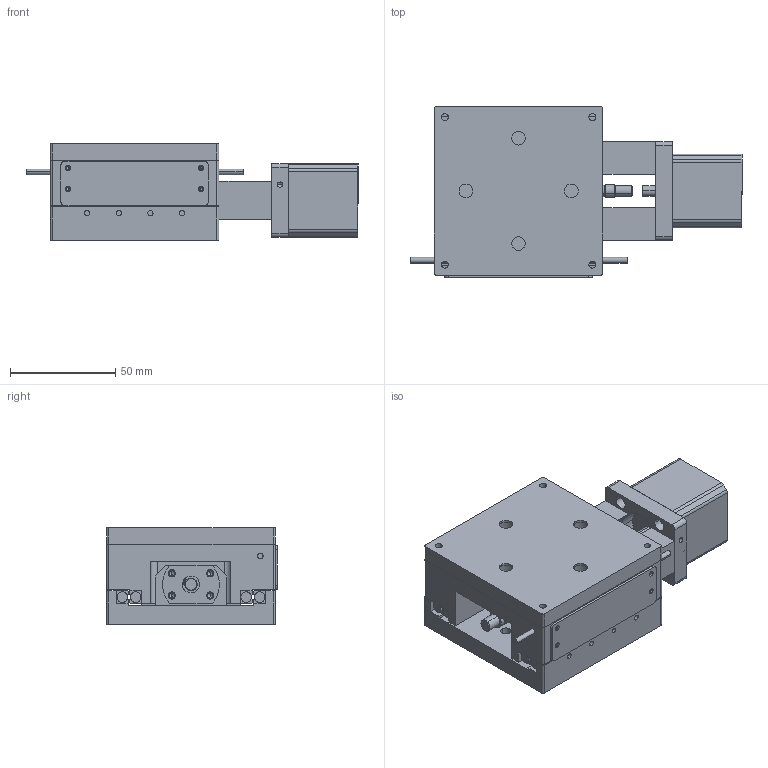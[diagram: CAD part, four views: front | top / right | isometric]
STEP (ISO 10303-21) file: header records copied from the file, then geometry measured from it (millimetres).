
FILE_DESCRIPTION (( 'STEP AP203' ), '1' );
FILE_NAME ('30呶.STEP', '2026-06-23T14:45:58', ( '' ), ( '' ), 'SwSTEP 2.0', 'SolidWorks 2024', '' );
FILE_SCHEMA (( 'CONFIG_CONTROL_DESIGN' ));
Length unit declared in the file: millimetre
Products named in the file (14): 螺帽托架; TSFK00801-T4螺帽; PM-L25; YC35238; 挡板; 30㎜; 台面; V2-75; 基座; 电机板; 限位螺钉; 垫装板; TSFK00801-T4螺杆; 619
Assembly tree (18 placements, depth 2):
  30㎜
    基座
    V2-75  x4
    台面
    TSFK00801-T4螺帽
    TSFK00801-T4螺杆
    螺帽托架
    YC35238
    619  x2
    PM-L25  x2
    电机板
    限位螺钉
    挡板
    垫装板
Bounding box: 157.5 x 81 x 46 mm (x, y, z)
Volume: 284434.8 mm3; surface area: 103819 mm2
Topology: 18 solids, 18 shells, 840 faces, 2131 edges, 1366 vertices
Faces by surface type: cylinder 489, plane 276, cone 69, torus 4, bspline 2
Entity records: 25620 total; most frequent: CARTESIAN_POINT 7479, DIRECTION 3676, ORIENTED_EDGE 3252, EDGE_CURVE 1626, AXIS2_PLACEMENT_3D 1444, VERTEX_POINT 1068, EDGE_LOOP 886, LINE 788
